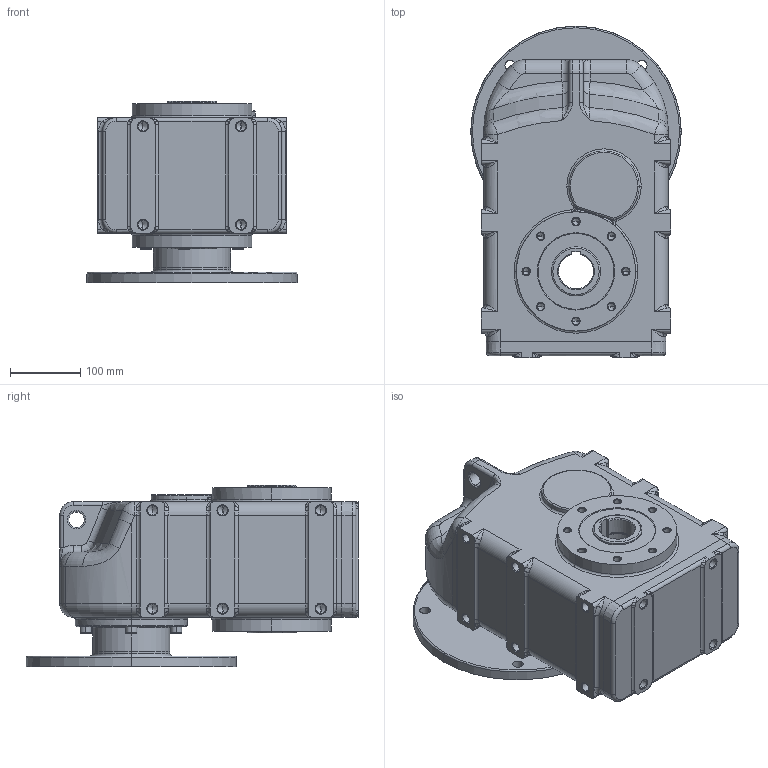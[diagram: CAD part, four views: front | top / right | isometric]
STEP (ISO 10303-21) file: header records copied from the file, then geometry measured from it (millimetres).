
FILE_DESCRIPTION (( 'STEP AP214' ), '1' );
FILE_NAME ('tnc42-f265-ap132.STEP', '2009-09-21T10:46:42', ( '' ), ( '' ), 'SwSTEP 2.0', 'SolidWorks 2003240', '' );
FILE_SCHEMA (( 'AUTOMOTIVE_DESIGN' ));
Length unit declared in the file: millimetre
Products named in the file (4): Skøíò TNC4_Skøíò TNC42 AP132; Pøíruba MRT120 kulatá _230-265-300; tnc42-f265-ap132; N021143_Šroub s vnitøním šestihranem DIN 912 - M8 x 25
Assembly tree (8 placements, depth 2):
  tnc42-f265-ap132
    Pøíruba MRT120 kulatá _230-265-300
    N021143_Šroub s vnitøním šestihranem DIN 912 - M8 x 25  x6
    Skøíò TNC4_Skøíò TNC42 AP132
Bounding box: 300 x 473 x 258 mm (x, y, z)
Volume: 18658199.2 mm3; surface area: 719676.2 mm2
Topology: 8 solids, 8 shells, 867 faces, 1983 edges, 1090 vertices
Faces by surface type: cylinder 265, cone 235, plane 160, torus 119, bspline 84, sphere 4
Entity records: 100312 total; most frequent: CARTESIAN_POINT 83018, DIRECTION 3651, ORIENTED_EDGE 3258, EDGE_CURVE 1629, AXIS2_PLACEMENT_3D 1509, VERTEX_POINT 960, CIRCLE 845, EDGE_LOOP 825
